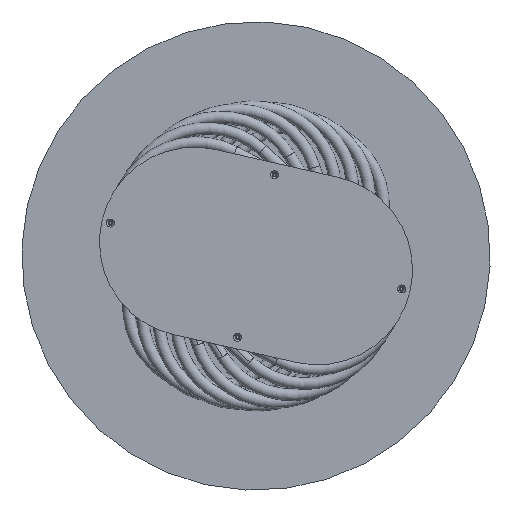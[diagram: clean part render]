
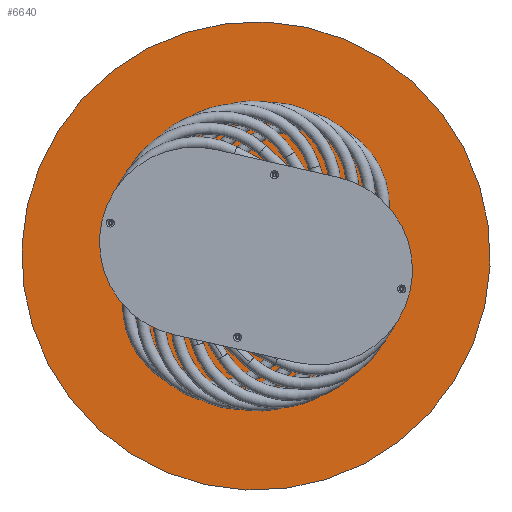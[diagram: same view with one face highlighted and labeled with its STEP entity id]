
A CAD part, front view. The second image highlights one B-rep face of the part: STEP entity #6640.
In plain terms, the highlighted planar face has unit normal (0, -1, 0).
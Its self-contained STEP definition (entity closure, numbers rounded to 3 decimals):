
#225 = DIRECTION ( 'NONE',  ( 0., 0., -1. ) ) ;
#306 = CARTESIAN_POINT ( 'NONE',  ( 0., 0., 0. ) ) ;
#789 = CIRCLE ( 'NONE', #5243, 400. ) ;
#1240 = VERTEX_POINT ( 'NONE', #6146 ) ;
#1666 = ORIENTED_EDGE ( 'NONE', *, *, #1825, .T. ) ;
#1825 = EDGE_CURVE ( 'NONE', #3077, #1240, #5170, .T. ) ;
#2132 = DIRECTION ( 'NONE',  ( 0., -1., 0. ) ) ;
#2679 = CARTESIAN_POINT ( 'NONE',  ( 0., 0., 0. ) ) ;
#3077 = VERTEX_POINT ( 'NONE', #5099 ) ;
#3653 = FACE_OUTER_BOUND ( 'NONE', #5409, .T. ) ;
#3848 = DIRECTION ( 'NONE',  ( 0., -1., 0. ) ) ;
#4546 = ORIENTED_EDGE ( 'NONE', *, *, #4697, .T. ) ;
#4697 = EDGE_CURVE ( 'NONE', #1240, #3077, #789, .T. ) ;
#4805 = DIRECTION ( 'NONE',  ( 0., -1., 0. ) ) ;
#5099 = CARTESIAN_POINT ( 'NONE',  ( 0., 0., 400. ) ) ;
#5170 = CIRCLE ( 'NONE', #7362, 400. ) ;
#5243 = AXIS2_PLACEMENT_3D ( 'NONE', #2679, #3848, #5754 ) ;
#5409 = EDGE_LOOP ( 'NONE', ( #4546, #1666 ) ) ;
#5571 = CARTESIAN_POINT ( 'NONE',  ( 0., 0., 0. ) ) ;
#5754 = DIRECTION ( 'NONE',  ( 0., 0., -1. ) ) ;
#6146 = CARTESIAN_POINT ( 'NONE',  ( 0., 0., -400. ) ) ;
#6640 = ADVANCED_FACE ( 'NONE', ( #3653 ), #7399, .T. ) ;
#7278 = DIRECTION ( 'NONE',  ( 0., 0., -1. ) ) ;
#7362 = AXIS2_PLACEMENT_3D ( 'NONE', #306, #2132, #225 ) ;
#7399 = PLANE ( 'NONE',  #7726 ) ;
#7726 = AXIS2_PLACEMENT_3D ( 'NONE', #5571, #4805, #7278 ) ;
